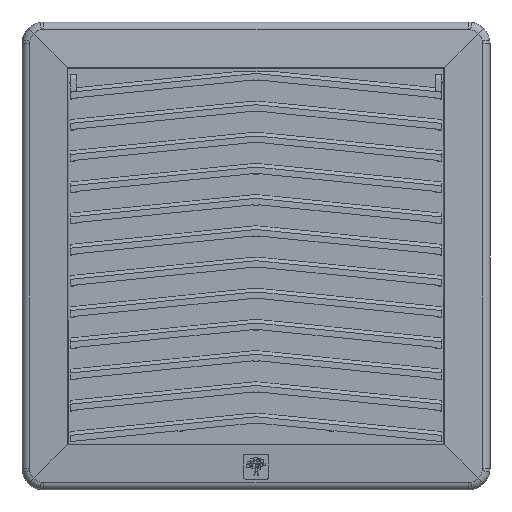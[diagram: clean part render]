
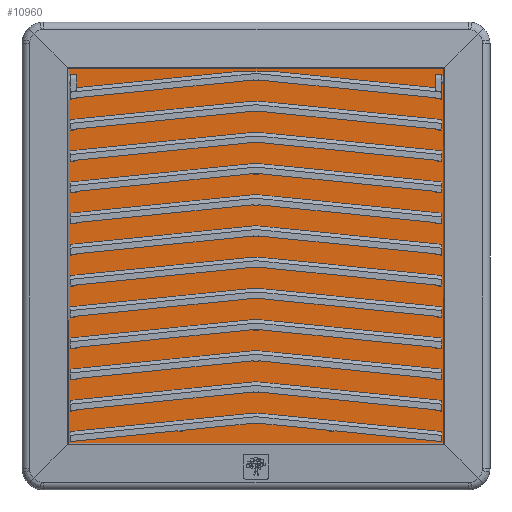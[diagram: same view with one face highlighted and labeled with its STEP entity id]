
A CAD part, top view. The second image highlights one B-rep face of the part: STEP entity #10960.
In plain terms, the highlighted planar face has unit normal (0, 0, 1).
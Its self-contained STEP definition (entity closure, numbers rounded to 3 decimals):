
#242 = VECTOR ( 'NONE', #6230, 1000. ) ;
#492 = CARTESIAN_POINT ( 'NONE',  ( 60.022, 60.022, 29.265 ) ) ;
#598 = VECTOR ( 'NONE', #934, 1000. ) ;
#602 = VERTEX_POINT ( 'NONE', #4853 ) ;
#934 = DIRECTION ( 'NONE',  ( 0., -1., 0. ) ) ;
#1241 = ORIENTED_EDGE ( 'NONE', *, *, #11625, .T. ) ;
#1865 = EDGE_CURVE ( 'NONE', #12035, #11454, #10001, .T. ) ;
#2215 = ORIENTED_EDGE ( 'NONE', *, *, #3102, .T. ) ;
#2801 = EDGE_LOOP ( 'NONE', ( #2215, #9589, #7412, #1241 ) ) ;
#3049 = DIRECTION ( 'NONE',  ( 1., 0., 0. ) ) ;
#3102 = EDGE_CURVE ( 'NONE', #602, #5450, #12817, .T. ) ;
#3150 = CARTESIAN_POINT ( 'NONE',  ( 71.82, -71.817, 29.265 ) ) ;
#4153 = PLANE ( 'NONE',  #5816 ) ;
#4853 = CARTESIAN_POINT ( 'NONE',  ( 60.022, -60.022, 29.265 ) ) ;
#5450 = VERTEX_POINT ( 'NONE', #492 ) ;
#5816 = AXIS2_PLACEMENT_3D ( 'NONE', #3150, #9275, #8351 ) ;
#6230 = DIRECTION ( 'NONE',  ( -1., 0., 0. ) ) ;
#6242 = VECTOR ( 'NONE', #3049, 1000. ) ;
#6366 = VECTOR ( 'NONE', #10646, 1000. ) ;
#7412 = ORIENTED_EDGE ( 'NONE', *, *, #1865, .T. ) ;
#8118 = CARTESIAN_POINT ( 'NONE',  ( 59.07, -60.022, 29.265 ) ) ;
#8351 = DIRECTION ( 'NONE',  ( 1., 0., 0. ) ) ;
#8654 = CARTESIAN_POINT ( 'NONE',  ( 60.022, -59.07, 29.265 ) ) ;
#9275 = DIRECTION ( 'NONE',  ( 0., 0., 1. ) ) ;
#9589 = ORIENTED_EDGE ( 'NONE', *, *, #10048, .T. ) ;
#9912 = CARTESIAN_POINT ( 'NONE',  ( -60.022, -60.022, 29.265 ) ) ;
#10001 = LINE ( 'NONE', #10065, #598 ) ;
#10048 = EDGE_CURVE ( 'NONE', #5450, #12035, #10257, .T. ) ;
#10065 = CARTESIAN_POINT ( 'NONE',  ( -60.022, -59.07, 29.265 ) ) ;
#10227 = LINE ( 'NONE', #8118, #6242 ) ;
#10257 = LINE ( 'NONE', #12125, #242 ) ;
#10344 = CARTESIAN_POINT ( 'NONE',  ( -60.022, 60.022, 29.265 ) ) ;
#10646 = DIRECTION ( 'NONE',  ( 0., 1., 0. ) ) ;
#10960 = ADVANCED_FACE ( 'NONE', ( #11197 ), #4153, .T. ) ;
#11197 = FACE_OUTER_BOUND ( 'NONE', #2801, .T. ) ;
#11454 = VERTEX_POINT ( 'NONE', #9912 ) ;
#11625 = EDGE_CURVE ( 'NONE', #11454, #602, #10227, .T. ) ;
#12035 = VERTEX_POINT ( 'NONE', #10344 ) ;
#12125 = CARTESIAN_POINT ( 'NONE',  ( 59.07, 60.022, 29.265 ) ) ;
#12817 = LINE ( 'NONE', #8654, #6366 ) ;
